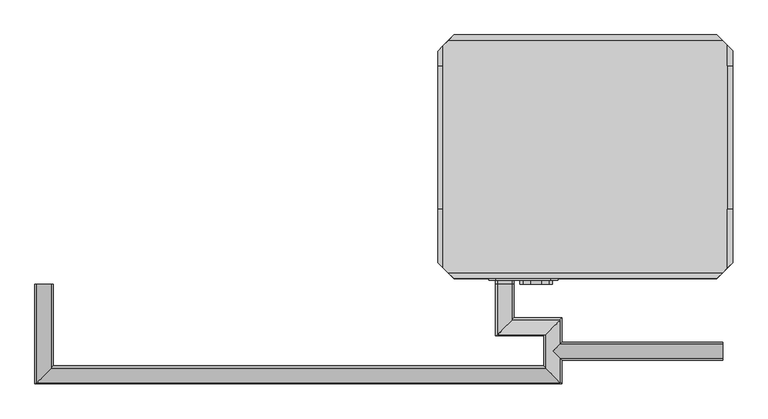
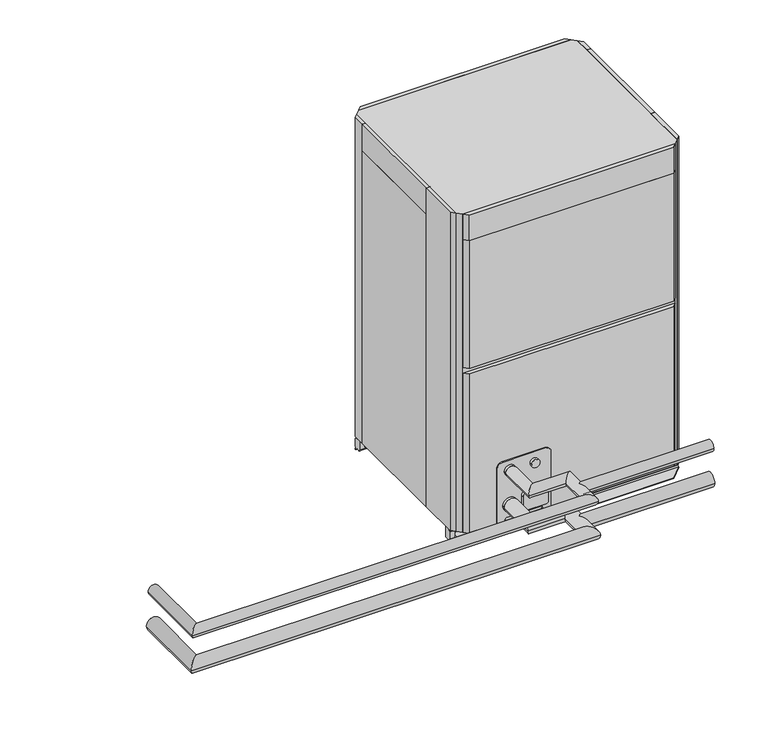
"""IFC4 building model written with IfcOpenShell, lengths in millimetres: proxy geometry, PURY-P168-288_YSJMU_Heat_Recovery_460V : PURY-P192YSJMU-A(-BS)_460V."""

from ifc_helpers import new_model, si_unit, point, frame, frame_2d, origin, place, context, project, spatial, polyline, circle_curve, ellipse_curve, trimmed, segment, composite_curve, outline, extrude, source, transform, mapped, element, save
from ifc_brep_helpers import plane_surface, cylinder_surface, revolved_surface, advanced_brep


def mechanical_equipment_f1262ded(model_context):
    return source(origin(), model_context, "Body", "SolidModel", [
        advanced_brep(
        [(-227.9552757, -397.2710787, 128.75), (-170.8052757, -397.2710787, 128.75), (-227.9552757, -709.2315266, 128.75), (-170.8052757, -652.0815266, 128.75), (1418.1947243, -709.2315266, 128.75), (1361.0447243, -652.0815266, 128.75), (1418.1947243, -635.3498061, 128.75), (1389.6197243, -606.7748061, 157.325), (1418.1947243, -578.1998061, 128.75), (1418.1947243, -502.0815266, 128.75), (1361.0447243, -559.2315266, 128.75), (1389.6197243, -606.7748061, 100.175), (1268.1947243, -502.0815266, 128.75), (1211.0447243, -559.2315266, 128.75), (1268.1947243, -397.2710787, 128.75), (1211.0447243, -397.2710787, 128.75), (1919.6197243, -635.3498061, 128.75), (1919.6197243, -578.1998061, 128.75)],
        [
            (0, 1, circle_curve(frame((-199.3802757, -397.2710787, 128.75), z_axis=(0.0, 1.0, 0.0), x_axis=(1.0, 0.0, 0.0)), 28.575)),
            (1, 0, circle_curve(frame((-199.3802757, -397.2710787, 128.75), z_axis=(0.0, 1.0, 0.0), x_axis=(1.0, 0.0, 0.0)), 28.575)),
            (0, 2),
            (2, 3, ellipse_curve(frame((-199.3802757, -680.6565266, 128.75), z_axis=(-0.7071067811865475, 0.7071067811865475, 0.0), x_axis=(0.7071067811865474, 0.7071067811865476, 0.0)), 40.4111525, 28.575)),
            (3, 1),
            (3, 2, ellipse_curve(frame((-199.3802757, -680.6565266, 128.75), z_axis=(-0.7071067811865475, 0.7071067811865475, 0.0), x_axis=(0.7071067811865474, 0.7071067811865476, 0.0)), 40.4111525, 28.575)),
            (2, 4),
            (4, 5, ellipse_curve(frame((1389.6197243, -680.6565266, 128.75), z_axis=(-0.7071067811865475, -0.7071067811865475, 0.0), x_axis=(-0.7071067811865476, 0.7071067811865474, 0.0)), 40.4111525, 28.575)),
            (5, 3),
            (5, 4, ellipse_curve(frame((1389.6197243, -680.6565266, 128.75), z_axis=(-0.7071067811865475, -0.7071067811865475, 0.0), x_axis=(-0.7071067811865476, 0.7071067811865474, 0.0)), 40.4111525, 28.575)),
            (4, 6),
            (6, 7, ellipse_curve(frame((1389.6197243, -606.7748061, 128.75), z_axis=(-0.7071067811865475, -0.7071067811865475, 0.0), x_axis=(0.7071067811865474, -0.7071067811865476, 0.0)), 40.4111525, 28.575)),
            (7, 8, ellipse_curve(frame((1389.6197243, -606.7748061, 128.75), z_axis=(-0.7071067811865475, 0.7071067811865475, 0.0), x_axis=(-0.7071067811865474, -0.7071067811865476, 0.0)), 40.4111525, 28.575)),
            (8, 9),
            (9, 10, ellipse_curve(frame((1389.6197243, -530.6565266, 128.75), z_axis=(0.7071067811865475, -0.7071067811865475, 0.0), x_axis=(-0.7071067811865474, -0.7071067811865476, 0.0)), 40.4111525, 28.575)),
            (10, 5),
            (10, 9, ellipse_curve(frame((1389.6197243, -530.6565266, 128.75), z_axis=(0.7071067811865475, -0.7071067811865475, 0.0), x_axis=(-0.7071067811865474, -0.7071067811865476, 0.0)), 40.4111525, 28.575)),
            (8, 11, ellipse_curve(frame((1389.6197243, -606.7748061, 128.75), z_axis=(-0.7071067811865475, 0.7071067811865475, 0.0), x_axis=(-0.7071067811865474, -0.7071067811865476, 0.0)), 40.4111525, 28.575)),
            (11, 6, ellipse_curve(frame((1389.6197243, -606.7748061, 128.75), z_axis=(-0.7071067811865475, -0.7071067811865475, 0.0), x_axis=(0.7071067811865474, -0.7071067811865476, 0.0)), 40.4111525, 28.575)),
            (9, 12),
            (12, 13, ellipse_curve(frame((1239.6197243, -530.6565266, 128.75), z_axis=(0.7071067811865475, -0.7071067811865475, 0.0), x_axis=(0.7071067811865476, 0.7071067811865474, 0.0)), 40.4111525, 28.575)),
            (13, 10),
            (13, 12, ellipse_curve(frame((1239.6197243, -530.6565266, 128.75), z_axis=(0.7071067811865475, -0.7071067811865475, 0.0), x_axis=(0.7071067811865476, 0.7071067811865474, 0.0)), 40.4111525, 28.575)),
            (14, 15, circle_curve(frame((1239.6197243, -397.2710787, 128.75), z_axis=(0.0, 1.0, 0.0), x_axis=(-1.0, 0.0, 0.0)), 28.575)),
            (15, 14, circle_curve(frame((1239.6197243, -397.2710787, 128.75), z_axis=(0.0, 1.0, 0.0), x_axis=(-1.0, 0.0, 0.0)), 28.575)),
            (12, 14),
            (15, 13),
            (16, 17, circle_curve(frame((1919.6197243, -606.7748061, 128.75), z_axis=(1.0, 0.0, 0.0), x_axis=(0.0, 1.0, 0.0)), 28.575)),
            (17, 16, circle_curve(frame((1919.6197243, -606.7748061, 128.75), z_axis=(1.0, 0.0, 0.0), x_axis=(0.0, 1.0, 0.0)), 28.575)),
            (17, 8),
            (6, 16),
        ],
        [
            plane_surface(frame((-199.3802757, -397.2710787, 128.75), z_axis=(0.0, 1.0, 0.0), x_axis=(0.0, 0.0, 1.0))),
            cylinder_surface(frame((-199.3802757, -397.2710787, 128.75), z_axis=(0.0, 1.0, 0.0), x_axis=(1.0, 0.0, 0.0)), 28.575),
            cylinder_surface(frame((-199.3802757, -680.6565266, 128.75), z_axis=(-1.0, 0.0, 0.0), x_axis=(0.0, 1.0, 0.0)), 28.575),
            cylinder_surface(frame((1389.6197243, -680.6565266, 128.75), z_axis=(0.0, -1.0, 0.0), x_axis=(-1.0, 0.0, 0.0)), 28.575),
            cylinder_surface(frame((1389.6197243, -530.6565266, 128.75), z_axis=(1.0, 0.0, 0.0), x_axis=(0.0, -1.0, 0.0)), 28.575),
            plane_surface(frame((1239.6197243, -397.2710787, 128.75), z_axis=(0.0, 1.0, 0.0), x_axis=(0.0, 0.0, 1.0))),
            cylinder_surface(frame((1239.6197243, -530.6565266, 128.75), z_axis=(0.0, -1.0, 0.0), x_axis=(-1.0, 0.0, 0.0)), 28.575),
            plane_surface(frame((1919.6197243, -606.7748061, 128.75), z_axis=(1.0, 0.0, 0.0), x_axis=(0.0, 0.0, 1.0))),
            cylinder_surface(frame((1389.6197243, -606.7748061, 128.75), z_axis=(-1.0, 0.0, 0.0), x_axis=(0.0, 1.0, 0.0)), 28.575),
        ],
        [
            (0, [[1, 2]]),
            (1, [[-1, 3, 4, 5]]),
            (1, [[-2, -5, 6, -3]]),
            (2, [[-4, 7, 8, 9]]),
            (2, [[-6, -9, 10, -7]]),
            (3, [[-8, 11, 12, 13, 14, 15, 16]]),
            (3, [[-10, -16, 17, -14, 18, 19, -11]]),
            (4, [[-15, 20, 21, 22]]),
            (4, [[-17, -22, 23, -20]]),
            (5, [[24, 25]]),
            (6, [[-21, 26, -25, 27]]),
            (6, [[-23, -27, -24, -26]]),
            (7, [[28, 29]]),
            (8, [[-29, 30, -13, -12, 31]]),
            (8, [[-28, -31, -19, -18, -30]]),
        ],
    ),
        advanced_brep(
        [(-221.6052757, -397.2710787, 272.67), (-177.1552757, -397.2710787, 272.67), (-221.6052757, -705.4033198, 272.67), (-177.1552757, -660.9533198, 272.67), (1411.8447243, -705.4033198, 272.67), (1367.3947243, -660.9533198, 272.67), (1411.8447243, -628.9998061, 272.67), (1389.6197243, -606.7748061, 294.895), (1411.8447243, -584.5498061, 272.67), (1411.8447243, -510.9533198, 272.67), (1367.3947243, -555.4033198, 272.67), (1389.6197243, -606.7748061, 250.445), (1261.8447243, -510.9533198, 272.67), (1217.3947243, -555.4033198, 272.67), (1261.8447243, -397.2710787, 272.67), (1217.3947243, -397.2710787, 272.67), (1919.6197243, -628.9998061, 272.67), (1919.6197243, -584.5498061, 272.67)],
        [
            (0, 1, circle_curve(frame((-199.3802757, -397.2710787, 272.67), z_axis=(0.0, 1.0, 0.0), x_axis=(1.0, 0.0, 0.0)), 22.225)),
            (1, 0, circle_curve(frame((-199.3802757, -397.2710787, 272.67), z_axis=(0.0, 1.0, 0.0), x_axis=(1.0, 0.0, 0.0)), 22.225)),
            (0, 2),
            (2, 3, ellipse_curve(frame((-199.3802757, -683.1783198, 272.67), z_axis=(-0.7071067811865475, 0.7071067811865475, 0.0), x_axis=(0.7071067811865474, 0.7071067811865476, 0.0)), 31.4308964, 22.225)),
            (3, 1),
            (3, 2, ellipse_curve(frame((-199.3802757, -683.1783198, 272.67), z_axis=(-0.7071067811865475, 0.7071067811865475, 0.0), x_axis=(0.7071067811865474, 0.7071067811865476, 0.0)), 31.4308964, 22.225)),
            (2, 4),
            (4, 5, ellipse_curve(frame((1389.6197243, -683.1783198, 272.67), z_axis=(-0.7071067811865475, -0.7071067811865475, 0.0), x_axis=(-0.7071067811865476, 0.7071067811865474, 0.0)), 31.4308964, 22.225)),
            (5, 3),
            (5, 4, ellipse_curve(frame((1389.6197243, -683.1783198, 272.67), z_axis=(-0.7071067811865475, -0.7071067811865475, 0.0), x_axis=(-0.7071067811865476, 0.7071067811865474, 0.0)), 31.4308964, 22.225)),
            (4, 6),
            (6, 7, ellipse_curve(frame((1389.6197243, -606.7748061, 272.67), z_axis=(-0.7071067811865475, -0.7071067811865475, 0.0), x_axis=(0.7071067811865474, -0.7071067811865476, 0.0)), 31.4308964, 22.225)),
            (7, 8, ellipse_curve(frame((1389.6197243, -606.7748061, 272.67), z_axis=(-0.7071067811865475, 0.7071067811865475, 0.0), x_axis=(-0.7071067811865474, -0.7071067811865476, 0.0)), 31.4308964, 22.225)),
            (8, 9),
            (9, 10, ellipse_curve(frame((1389.6197243, -533.1783198, 272.67), z_axis=(0.7071067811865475, -0.7071067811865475, 0.0), x_axis=(-0.7071067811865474, -0.7071067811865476, 0.0)), 31.4308964, 22.225)),
            (10, 5),
            (10, 9, ellipse_curve(frame((1389.6197243, -533.1783198, 272.67), z_axis=(0.7071067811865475, -0.7071067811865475, 0.0), x_axis=(-0.7071067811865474, -0.7071067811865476, 0.0)), 31.4308964, 22.225)),
            (8, 11, ellipse_curve(frame((1389.6197243, -606.7748061, 272.67), z_axis=(-0.7071067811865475, 0.7071067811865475, 0.0), x_axis=(-0.7071067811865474, -0.7071067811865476, 0.0)), 31.4308964, 22.225)),
            (11, 6, ellipse_curve(frame((1389.6197243, -606.7748061, 272.67), z_axis=(-0.7071067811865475, -0.7071067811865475, 0.0), x_axis=(0.7071067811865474, -0.7071067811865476, 0.0)), 31.4308964, 22.225)),
            (9, 12),
            (12, 13, ellipse_curve(frame((1239.6197243, -533.1783198, 272.67), z_axis=(0.7071067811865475, -0.7071067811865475, 0.0), x_axis=(0.7071067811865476, 0.7071067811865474, 0.0)), 31.4308964, 22.225)),
            (13, 10),
            (13, 12, ellipse_curve(frame((1239.6197243, -533.1783198, 272.67), z_axis=(0.7071067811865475, -0.7071067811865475, 0.0), x_axis=(0.7071067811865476, 0.7071067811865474, 0.0)), 31.4308964, 22.225)),
            (14, 15, circle_curve(frame((1239.6197243, -397.2710787, 272.67), z_axis=(0.0, 1.0, 0.0), x_axis=(-1.0, 0.0, 0.0)), 22.225)),
            (15, 14, circle_curve(frame((1239.6197243, -397.2710787, 272.67), z_axis=(0.0, 1.0, 0.0), x_axis=(-1.0, 0.0, 0.0)), 22.225)),
            (12, 14),
            (15, 13),
            (16, 17, circle_curve(frame((1919.6197243, -606.7748061, 272.67), z_axis=(1.0, 0.0, 0.0), x_axis=(0.0, 1.0, 0.0)), 22.225)),
            (17, 16, circle_curve(frame((1919.6197243, -606.7748061, 272.67), z_axis=(1.0, 0.0, 0.0), x_axis=(0.0, 1.0, 0.0)), 22.225)),
            (17, 8),
            (6, 16),
        ],
        [
            plane_surface(frame((-199.3802757, -397.2710787, 272.67), z_axis=(0.0, 1.0, 0.0), x_axis=(0.0, 0.0, 1.0))),
            cylinder_surface(frame((-199.3802757, -397.2710787, 272.67), z_axis=(0.0, 1.0, 0.0), x_axis=(1.0, 0.0, 0.0)), 22.225),
            cylinder_surface(frame((-199.3802757, -683.1783198, 272.67), z_axis=(-1.0, 0.0, 0.0), x_axis=(0.0, 1.0, 0.0)), 22.225),
            cylinder_surface(frame((1389.6197243, -683.1783198, 272.67), z_axis=(0.0, -1.0, 0.0), x_axis=(-1.0, 0.0, 0.0)), 22.225),
            cylinder_surface(frame((1389.6197243, -533.1783198, 272.67), z_axis=(1.0, 0.0, 0.0), x_axis=(0.0, -1.0, 0.0)), 22.225),
            plane_surface(frame((1239.6197243, -397.2710787, 272.67), z_axis=(0.0, 1.0, 0.0), x_axis=(0.0, 0.0, 1.0))),
            cylinder_surface(frame((1239.6197243, -533.1783198, 272.67), z_axis=(0.0, -1.0, 0.0), x_axis=(-1.0, 0.0, 0.0)), 22.225),
            plane_surface(frame((1919.6197243, -606.7748061, 272.67), z_axis=(1.0, 0.0, 0.0), x_axis=(0.0, 0.0, 1.0))),
            cylinder_surface(frame((1389.6197243, -606.7748061, 272.67), z_axis=(-1.0, 0.0, 0.0), x_axis=(0.0, 1.0, 0.0)), 22.225),
        ],
        [
            (0, [[1, 2]]),
            (1, [[-1, 3, 4, 5]]),
            (1, [[-2, -5, 6, -3]]),
            (2, [[-4, 7, 8, 9]]),
            (2, [[-6, -9, 10, -7]]),
            (3, [[-8, 11, 12, 13, 14, 15, 16]]),
            (3, [[-10, -16, 17, -14, 18, 19, -11]]),
            (4, [[-15, 20, 21, 22]]),
            (4, [[-17, -22, 23, -20]]),
            (5, [[24, 25]]),
            (6, [[-21, 26, -25, 27]]),
            (6, [[-23, -27, -24, -26]]),
            (7, [[28, 29]]),
            (8, [[-29, 30, -13, -12, 31]]),
            (8, [[-28, -31, -19, -18, -30]]),
        ],
    ),
        extrude(outline(composite_curve([segment(trimmed(circle_curve(frame_2d((148.5853631, 1296.6117511)), 9.9920268), [point((158.5773899, 1296.6117511))], [point((148.5853631, 1286.6197243))], False, "CARTESIAN"), True, "CONTINUOUS"), segment(polyline([(148.5853631, 1286.6197243), (96.5694168, 1286.6197243)]), True, "CONTINUOUS"), segment(trimmed(circle_curve(frame_2d((96.5694168, 1296.6117511)), 9.9920268), [point((96.5694168, 1286.6197243))], [point((86.5773899, 1296.6117511))], False, "CARTESIAN"), True, "CONTINUOUS"), segment(polyline([(86.5773899, 1296.6117511), (86.5773899, 1378.6276974)]), True, "CONTINUOUS"), segment(trimmed(circle_curve(frame_2d((96.5694168, 1378.6276974)), 9.9920268), [point((86.5773899, 1378.6276974))], [point((96.5694168, 1388.6197243))], False, "CARTESIAN"), True, "CONTINUOUS"), segment(polyline([(96.5694168, 1388.6197243), (148.5853631, 1388.6197243)]), True, "CONTINUOUS"), segment(trimmed(circle_curve(frame_2d((148.5853631, 1378.6276974)), 9.9920268), [point((148.5853631, 1388.6197243))], [point((158.5773899, 1378.6276974))], False, "CARTESIAN"), True, "CONTINUOUS"), segment(polyline([(158.5773899, 1378.6276974), (158.5773899, 1296.6117511)]), True, "CONTINUOUS")], self_intersect=False)), frame((0.0, -397.2710787, 0.0), z_axis=(0.0, 1.0, 0.0), x_axis=(0.0, 0.0, 1.0)), (0.0, 0.0, 1.0), 12.5),
        extrude(outline(composite_curve([segment(trimmed(circle_curve(frame_2d((292.0295314, 1383.8713302)), 21.9704686), [point((292.0295314, 1405.8417988))], [point((314.0, 1383.8713302))], False, "CARTESIAN"), True, "CONTINUOUS"), segment(polyline([(314.0, 1383.8713302), (314.0, 1212.0084686)]), True, "CONTINUOUS"), segment(trimmed(circle_curve(frame_2d((292.0295314, 1212.0084686)), 21.9704686), [point((314.0, 1212.0084686))], [point((292.0295314, 1190.038))], False, "CARTESIAN"), True, "CONTINUOUS"), segment(polyline([(292.0295314, 1190.038), (54.0, 1190.038), (54.0, 1405.8417988), (292.0295314, 1405.8417988)]), True, "CONTINUOUS")], self_intersect=False), holes=[composite_curve([segment(trimmed(circle_curve(frame_2d((66.0219765, 1364.5867184)), 7.4940201), [point((73.5159966, 1364.5867184))], [point((58.5279563, 1364.5867184))], True, "CARTESIAN"), True, "CONTINUOUS"), segment(polyline([(58.5279563, 1364.5867184), (58.5279563, 1229.6943561)]), True, "CONTINUOUS"), segment(trimmed(circle_curve(frame_2d((66.0219765, 1229.6943561)), 7.4940201), [point((58.5279563, 1229.6943561))], [point((73.5159966, 1229.6943561))], True, "CARTESIAN"), True, "CONTINUOUS"), segment(polyline([(73.5159966, 1229.6943561), (73.5159966, 1364.5867184)]), True, "CONTINUOUS")], self_intersect=False)]), frame((0.0, -384.7710787, 0.0), z_axis=(0.0, 1.0, 0.0), x_axis=(0.0, 0.0, 1.0)), (0.0, 0.0, 1.0), 4.7710787),
        extrude(outline(composite_curve([segment(trimmed(circle_curve(frame_2d((272.5206481, 1239.6197243)), 22.225), [point((272.5206481, 1217.3947243))], [point((272.5206481, 1261.8447243))], False, "CARTESIAN"), True, "CONTINUOUS"), segment(trimmed(circle_curve(frame_2d((272.5206481, 1239.6197243)), 22.225), [point((272.5206481, 1261.8447243))], [point((272.5206481, 1217.3947243))], False, "CARTESIAN"), True, "CONTINUOUS")], self_intersect=False)), frame((0.0, -397.2710787, 0.0), z_axis=(0.0, 1.0, 0.0), x_axis=(0.0, 0.0, 1.0)), (0.0, 0.0, 1.0), 12.5),
        extrude(outline(composite_curve([segment(trimmed(circle_curve(frame_2d((272.5206481, 1337.6197243)), 17.0), [point((272.5206481, 1320.6197243))], [point((272.5206481, 1354.6197243))], False, "CARTESIAN"), True, "CONTINUOUS"), segment(trimmed(circle_curve(frame_2d((272.5206481, 1337.6197243)), 17.0), [point((272.5206481, 1354.6197243))], [point((272.5206481, 1320.6197243))], False, "CARTESIAN"), True, "CONTINUOUS")], self_intersect=False)), frame((0.0, -397.2710787, 0.0), z_axis=(0.0, 1.0, 0.0), x_axis=(0.0, 0.0, 1.0)), (0.0, 0.0, 1.0), 12.5),
        extrude(outline(composite_curve([segment(trimmed(circle_curve(frame_2d((127.8409633, 1239.6197243)), 28.575), [point((127.8409633, 1211.0447243))], [point((127.8409633, 1268.1947243))], False, "CARTESIAN"), True, "CONTINUOUS"), segment(trimmed(circle_curve(frame_2d((127.8409633, 1239.6197243)), 28.575), [point((127.8409633, 1268.1947243))], [point((127.8409633, 1211.0447243))], False, "CARTESIAN"), True, "CONTINUOUS")], self_intersect=False)), frame((0.0, -397.2710787, 0.0), z_axis=(0.0, 1.0, 0.0), x_axis=(0.0, 0.0, 1.0)), (0.0, 0.0, 1.0), 12.5),
        extrude(outline(polyline([(1951.038, 284.0), (1935.038, 284.0), (1935.038, 346.9999976), (1951.038, 330.9999976), (1951.038, 284.0)])), frame((0.0, 0.0, 54.0), z_axis=(0.0, 0.0, 1.0), x_axis=(1.0, 0.0, 0.0)), (0.0, 0.0, 1.0), 1356.0),
        extrude(outline(polyline([(1935.038, -164.0), (1951.038, -164.0), (1951.038, -331.000002), (1935.038, -347.000002), (1935.038, -164.0)])), frame((0.0, 0.0, 54.0), z_axis=(0.0, 0.0, 1.0), x_axis=(1.0, 0.0, 0.0)), (0.0, 0.0, 1.0), 1356.0),
        extrude(outline(polyline([(1882.5551598, 364.0), (1882.5551598, 380.0), (1902.0379976, 380.0), (1918.0379976, 364.0), (1882.5551598, 364.0)])), frame((0.0, 0.0, 54.0), z_axis=(0.0, 0.0, 1.0), x_axis=(1.0, 0.0, 0.0)), (0.0, 0.0, 1.0), 1245.8),
        extrude(outline(polyline([(1109.870831, 380.0), (1109.870831, 364.0), (1065.4504928, 364.0), (1081.4504928, 380.0), (1109.870831, 380.0)])), frame((0.0, 0.0, 54.0), z_axis=(0.0, 0.0, 1.0), x_axis=(1.0, 0.0, 0.0)), (0.0, 0.0, 1.0), 1245.8),
        extrude(outline(polyline([(1918.0379976, 364.0), (1065.4504928, 364.0), (1081.4504928, 380.0), (1902.0379976, 380.0), (1918.0379976, 364.0)])), frame((0.0, 0.0, 1299.8), z_axis=(0.0, 0.0, 1.0), x_axis=(1.0, 0.0, 0.0)), (0.0, 0.0, 1.0), 110.2),
        extrude(outline(polyline([(1902.038002, -380.0), (1080.0379871, -380.0), (1064.0379871, -364.0), (1918.038002, -364.0), (1902.038002, -380.0)])), frame((0.0, 0.0, 1299.8), z_axis=(0.0, 0.0, 1.0), x_axis=(1.0, 0.0, 0.0)), (0.0, 0.0, 1.0), 110.2),
        extrude(outline(polyline([(1064.0379871, -364.0), (1918.038002, -364.0), (1902.038002, -380.0), (1080.0379871, -380.0), (1064.0379871, -364.0)])), frame((0.0, 0.0, 755.5000076), z_axis=(0.0, 0.0, 1.0), x_axis=(1.0, 0.0, 0.0)), (0.0, 0.0, 1.0), 544.2999924),
        extrude(outline(polyline([(1047.038, -347.0000129), (1047.038, 345.5875072), (1065.4504928, 364.0), (1918.0379976, 364.0), (1935.038, 346.9999976), (1935.038, -347.000002), (1918.038002, -364.0), (1064.0379871, -364.0), (1047.038, -347.0000129)])), frame((0.0, 0.0, 54.0), z_axis=(0.0, 0.0, 1.0), x_axis=(1.0, 0.0, 0.0)), (0.0, 0.0, 1.0), 1356.0),
        extrude(outline(polyline([(1047.038, 284.0), (1031.038, 284.0), (1031.038, 329.5875072), (1047.038, 345.5875072), (1047.038, 284.0)])), frame((0.0, 0.0, 54.0), z_axis=(0.0, 0.0, 1.0), x_axis=(1.0, 0.0, 0.0)), (0.0, 0.0, 1.0), 1356.0),
        extrude(outline(polyline([(1031.038, -164.0), (1047.038, -164.0), (1047.038, -347.0000129), (1031.038, -331.0000129), (1031.038, -164.0)])), frame((0.0, 0.0, 54.0), z_axis=(0.0, 0.0, 1.0), x_axis=(1.0, 0.0, 0.0)), (0.0, 0.0, 1.0), 1356.0),
        extrude(outline(polyline([(1064.0379871, -364.0), (1918.038002, -364.0), (1902.038002, -380.0), (1080.0379871, -380.0), (1064.0379871, -364.0)])), frame((0.0, 0.0, 54.0), z_axis=(0.0, 0.0, 1.0), x_axis=(1.0, 0.0, 0.0)), (0.0, 0.0, 1.0), 678.5000074),
        extrude(outline(polyline([(1491.038, 364.0), (1491.038, 380.0), (1882.5551598, 380.0), (1882.5551598, 364.0), (1491.038, 364.0)])), frame((0.0, 0.0, 54.0), z_axis=(0.0, 0.0, 1.0), x_axis=(1.0, 0.0, 0.0)), (0.0, 0.0, 1.0), 1245.8),
        extrude(outline(polyline([(1109.870831, 364.0), (1109.870831, 380.0), (1491.038, 380.0), (1491.038, 364.0), (1109.870831, 364.0)])), frame((0.0, 0.0, 54.0), z_axis=(0.0, 0.0, 1.0), x_axis=(1.0, 0.0, 0.0)), (0.0, 0.0, 1.0), 1245.8),
        advanced_brep(
        [(1951.038, 330.9999976, 2.3), (1951.038, 330.9999976, 0.0), (1902.0379976, 380.0, 0.0), (1902.0379976, 380.0, 2.3), (1031.038, 329.5875072, 0.0), (1031.038, 329.5875072, 2.3), (1081.4504928, 380.0, 2.3), (1081.4504928, 380.0, 0.0), (1951.038, 329.5875072, 2.3), (1951.038, 324.5875071, 7.3000001), (1951.038, 324.5875071, 11.7000001), (1951.038, 325.5875071, 12.7000001), (1951.038, 327.5875072, 12.7000001), (1951.038, 327.5875072, 47.3000005), (1951.038, 325.5875071, 47.3000005), (1951.038, 324.5875071, 48.3000005), (1951.038, 324.5875071, 50.0000004), (1951.038, 320.5875077, 53.9999997), (1951.038, 299.5875069, 53.9999997), (1951.038, 299.5875069, 14.0000001), (1951.038, 304.5875069, 9.0000001), (1951.038, 322.2875071, 9.0000001), (1951.038, 322.2875071, 7.3000001), (1951.038, 329.5875072, 0.0), (1031.038, 322.2875071, 7.3000001), (1031.038, 322.2875071, 9.0000001), (1031.038, 304.5875069, 9.0000001), (1031.038, 299.5875069, 14.0000001), (1031.038, 299.5875069, 53.9999997), (1031.038, 320.5875077, 53.9999997), (1031.038, 324.5875071, 50.0000004), (1031.038, 324.5875071, 48.3000005), (1031.038, 325.5875071, 47.3000005), (1031.038, 327.5875072, 47.3000005), (1031.038, 327.5875072, 12.7000001), (1031.038, 325.5875071, 12.7000001), (1031.038, 324.5875071, 11.7000001), (1031.038, 324.5875071, 7.3000001), (1922.288009, 327.5875072, 45.0000005), (1880.7880086, 327.5875072, 45.0000005), (1874.7880085, 327.5875072, 39.0000004), (1874.7880085, 327.5875072, 21.0000002), (1880.7880086, 327.5875072, 15.0000002), (1922.288009, 327.5875072, 15.0000002), (1928.2880091, 327.5875072, 21.0000002), (1928.2880091, 327.5875072, 39.0000004), (1059.0380003, 327.5875072, 45.0000005), (1053.0380002, 327.5875072, 39.0000004), (1053.0380002, 327.5875072, 21.0000002), (1059.0380003, 327.5875072, 15.0000002), (1100.5380007, 327.5875072, 15.0000002), (1106.5380008, 327.5875072, 21.0000002), (1106.5380008, 327.5875072, 39.0000004), (1100.5380007, 327.5875072, 45.0000005), (1880.7880086, 299.5875069, 45.0000005), (1922.288009, 299.5875069, 45.0000005), (1928.2880091, 299.5875069, 39.0000004), (1928.2880091, 299.5875069, 21.0000002), (1922.288009, 299.5875069, 15.0000002), (1880.7880086, 299.5875069, 15.0000002), (1874.7880085, 299.5875069, 21.0000002), (1874.7880085, 299.5875069, 39.0000004), (1053.0380002, 299.5875069, 39.0000004), (1059.0380003, 299.5875069, 45.0000005), (1100.5380007, 299.5875069, 45.0000005), (1106.5380008, 299.5875069, 39.0000004), (1106.5380008, 299.5875069, 21.0000002), (1100.5380007, 299.5875069, 15.0000002), (1059.0380003, 299.5875069, 15.0000002), (1053.0380002, 299.5875069, 21.0000002)],
        [
            (0, 1),
            (1, 2),
            (2, 3),
            (3, 0),
            (4, 5),
            (5, 6),
            (6, 7),
            (7, 4),
            (8, 9, circle_curve(frame((1951.038, 329.5875072, 7.3000001), z_axis=(-1.0, 0.0, 0.0), x_axis=(0.0, 1.0, 0.0)), 5.0000001)),
            (9, 10),
            (10, 11, circle_curve(frame((1951.038, 325.5875071, 11.7000001), z_axis=(-1.0, 0.0, 0.0), x_axis=(0.0, 1.0, 0.0)), 1.0)),
            (11, 12),
            (12, 13),
            (13, 14),
            (14, 15, circle_curve(frame((1951.038, 325.5875071, 48.3000005), z_axis=(-1.0, 0.0, 0.0), x_axis=(0.0, 1.0, 0.0)), 1.0)),
            (15, 16),
            (16, 17, circle_curve(frame((1951.038, 320.5875077, 50.0000004), z_axis=(1.0, 0.0, 0.0), x_axis=(0.0, 1.0, 0.0)), 3.9999994)),
            (17, 18),
            (18, 19),
            (19, 20, circle_curve(frame((1951.038, 304.5875069, 14.0000001), z_axis=(1.0, 0.0, 0.0), x_axis=(0.0, 1.0, 0.0)), 5.0000001)),
            (20, 21),
            (21, 22),
            (22, 23, circle_curve(frame((1951.038, 329.5875072, 7.3000001), z_axis=(1.0, 0.0, 0.0), x_axis=(0.0, 1.0, 0.0)), 7.3000001)),
            (23, 1),
            (0, 8),
            (4, 24, circle_curve(frame((1031.038, 329.5875072, 7.3000001), z_axis=(-1.0, 0.0, 0.0), x_axis=(0.0, 1.0, 0.0)), 7.3000001)),
            (24, 25),
            (25, 26),
            (26, 27, circle_curve(frame((1031.038, 304.5875069, 14.0000001), z_axis=(-1.0, 0.0, 0.0), x_axis=(0.0, 1.0, 0.0)), 5.0000001)),
            (27, 28),
            (28, 29),
            (29, 30, circle_curve(frame((1031.038, 320.5875077, 50.0000004), z_axis=(-1.0, 0.0, 0.0), x_axis=(0.0, 1.0, 0.0)), 3.9999994)),
            (30, 31),
            (31, 32, circle_curve(frame((1031.038, 325.5875071, 48.3000005), z_axis=(1.0, 0.0, 0.0), x_axis=(0.0, 1.0, 0.0)), 1.0)),
            (32, 33),
            (33, 34),
            (34, 35),
            (35, 36, circle_curve(frame((1031.038, 325.5875071, 11.7000001), z_axis=(1.0, 0.0, 0.0), x_axis=(0.0, 1.0, 0.0)), 1.0)),
            (36, 37),
            (37, 5, circle_curve(frame((1031.038, 329.5875072, 7.3000001), z_axis=(1.0, 0.0, 0.0), x_axis=(0.0, 1.0, 0.0)), 5.0000001)),
            (8, 5),
            (37, 9),
            (36, 10),
            (35, 11),
            (34, 12),
            (33, 13),
            (38, 39),
            (39, 40, circle_curve(frame((1880.7880086, 327.5875072, 39.0000004), z_axis=(0.0, -1.0, 0.0), x_axis=(1.0, 0.0, 0.0)), 6.0000001)),
            (40, 41),
            (41, 42, circle_curve(frame((1880.7880086, 327.5875072, 21.0000002), z_axis=(0.0, -1.0, 0.0), x_axis=(1.0, 0.0, 0.0)), 6.0000001)),
            (42, 43),
            (43, 44, circle_curve(frame((1922.288009, 327.5875072, 21.0000002), z_axis=(0.0, -1.0, 0.0), x_axis=(1.0, 0.0, 0.0)), 6.0000001)),
            (44, 45),
            (45, 38, circle_curve(frame((1922.288009, 327.5875072, 39.0000004), z_axis=(0.0, -1.0, 0.0), x_axis=(1.0, 0.0, 0.0)), 6.0000001)),
            (46, 47, circle_curve(frame((1059.0380003, 327.5875072, 39.0000004), z_axis=(0.0, -1.0, 0.0), x_axis=(1.0, 0.0, 0.0)), 6.0000001)),
            (47, 48),
            (48, 49, circle_curve(frame((1059.0380003, 327.5875072, 21.0000002), z_axis=(0.0, -1.0, 0.0), x_axis=(1.0, 0.0, 0.0)), 6.0000001)),
            (49, 50),
            (50, 51, circle_curve(frame((1100.5380007, 327.5875072, 21.0000002), z_axis=(0.0, -1.0, 0.0), x_axis=(1.0, 0.0, 0.0)), 6.0000001)),
            (51, 52),
            (52, 53, circle_curve(frame((1100.5380007, 327.5875072, 39.0000004), z_axis=(0.0, -1.0, 0.0), x_axis=(1.0, 0.0, 0.0)), 6.0000001)),
            (53, 46),
            (32, 14),
            (31, 15),
            (30, 16),
            (29, 17),
            (28, 18),
            (27, 19),
            (54, 55),
            (55, 56, circle_curve(frame((1922.288009, 299.5875069, 39.0000004), z_axis=(0.0, 1.0, 0.0), x_axis=(1.0, 0.0, 0.0)), 6.0000001)),
            (56, 57),
            (57, 58, circle_curve(frame((1922.288009, 299.5875069, 21.0000002), z_axis=(0.0, 1.0, 0.0), x_axis=(1.0, 0.0, 0.0)), 6.0000001)),
            (58, 59),
            (59, 60, circle_curve(frame((1880.7880086, 299.5875069, 21.0000002), z_axis=(0.0, 1.0, 0.0), x_axis=(1.0, 0.0, 0.0)), 6.0000001)),
            (60, 61),
            (61, 54, circle_curve(frame((1880.7880086, 299.5875069, 39.0000004), z_axis=(0.0, 1.0, 0.0), x_axis=(1.0, 0.0, 0.0)), 6.0000001)),
            (62, 63, circle_curve(frame((1059.0380003, 299.5875069, 39.0000004), z_axis=(0.0, 1.0, 0.0), x_axis=(1.0, 0.0, 0.0)), 6.0000001)),
            (63, 64),
            (64, 65, circle_curve(frame((1100.5380007, 299.5875069, 39.0000004), z_axis=(0.0, 1.0, 0.0), x_axis=(1.0, 0.0, 0.0)), 6.0000001)),
            (65, 66),
            (66, 67, circle_curve(frame((1100.5380007, 299.5875069, 21.0000002), z_axis=(0.0, 1.0, 0.0), x_axis=(1.0, 0.0, 0.0)), 6.0000001)),
            (67, 68),
            (68, 69, circle_curve(frame((1059.0380003, 299.5875069, 21.0000002), z_axis=(0.0, 1.0, 0.0), x_axis=(1.0, 0.0, 0.0)), 6.0000001)),
            (69, 62),
            (26, 20),
            (25, 21),
            (24, 22),
            (4, 23),
            (7, 2),
            (6, 3),
            (38, 55),
            (54, 39),
            (61, 40),
            (60, 41),
            (59, 42),
            (58, 43),
            (57, 44),
            (56, 45),
            (46, 63),
            (62, 47),
            (69, 48),
            (68, 49),
            (67, 50),
            (66, 51),
            (65, 52),
            (64, 53),
        ],
        [
            plane_surface(frame((1902.0379976, 380.0, 1410.0), z_axis=(0.7071067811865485, 0.7071067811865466, 0.0), x_axis=(0.0, 0.0, -1.0))),
            plane_surface(frame((1031.038, 329.5875072, 1410.0), z_axis=(-0.7071067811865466, 0.7071067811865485, 0.0), x_axis=(0.0, 0.0, -1.0))),
            plane_surface(frame((1951.038, 334.5875072, 7.3000001), z_axis=(1.0, 0.0, 0.0), x_axis=(0.0, 0.0, -1.0))),
            plane_surface(frame((1031.038, 334.5875072, 7.3000001), z_axis=(-1.0, 0.0, 0.0), x_axis=(0.0, 0.0, 1.0))),
            revolved_surface(polyline([(1031.038, 334.5875073, 7.3000001), (1951.038, 334.5875073, 7.3000001)]), (1031.038, 329.5875072, 7.3000001), (-1.0, 0.0, 0.0)),
            plane_surface(frame((1951.038, 324.5875071, 7.3000001), z_axis=(0.0, 1.0, 0.0), x_axis=(-1.0, 0.0, 0.0))),
            revolved_surface(polyline([(1031.038, 326.5875071, 11.7000001), (1951.038, 326.5875071, 11.7000001)]), (1031.038, 325.5875071, 11.7000001), (-1.0, 0.0, 0.0)),
            plane_surface(frame((1951.038, 325.5875071, 12.7000001), z_axis=(0.0, 0.0, -1.0), x_axis=(-1.0, 0.0, 0.0))),
            plane_surface(frame((1951.038, 327.5875072, 12.7000001), z_axis=(0.0, 1.0, 0.0), x_axis=(-1.0, 0.0, 0.0))),
            plane_surface(frame((1951.038, 327.5875072, 47.3000005), z_axis=(0.0, 0.0, 1.0), x_axis=(-1.0, 0.0, 0.0))),
            revolved_surface(polyline([(1031.038, 326.5875071, 48.3000005), (1951.038, 326.5875071, 48.3000005)]), (1031.038, 325.5875071, 48.3000005), (-1.0, 0.0, 0.0)),
            plane_surface(frame((1951.038, 324.5875071, 48.3000005), z_axis=(0.0, 1.0, 0.0), x_axis=(-1.0, 0.0, 0.0))),
            cylinder_surface(frame((1031.038, 320.5875077, 50.0000004), z_axis=(1.0, 0.0, 0.0), x_axis=(0.0, 1.0, 0.0)), 3.9999994),
            plane_surface(frame((1951.038, 320.5875077, 53.9999997), z_axis=(0.0, 0.0, 1.0), x_axis=(-1.0, 0.0, 0.0))),
            plane_surface(frame((1951.038, 299.5875069, 53.9999997), z_axis=(0.0, -1.0, 0.0), x_axis=(-1.0, 0.0, 0.0))),
            cylinder_surface(frame((1031.038, 304.5875069, 14.0000001), z_axis=(1.0, 0.0, 0.0), x_axis=(0.0, 1.0, 0.0)), 5.0000001),
            plane_surface(frame((1951.038, 304.5875069, 9.0000001), z_axis=(0.0, 0.0, -1.0), x_axis=(-1.0, 0.0, 0.0))),
            plane_surface(frame((1951.038, 322.2875071, 9.0000001), z_axis=(0.0, -1.0, 0.0), x_axis=(-1.0, 0.0, 0.0))),
            cylinder_surface(frame((1031.038, 329.5875072, 7.3000001), z_axis=(1.0, 0.0, 0.0), x_axis=(0.0, 1.0, 0.0)), 7.3000001),
            plane_surface(frame((1951.038, 329.5875072, 0.0), z_axis=(0.0, 0.0, -1.0), x_axis=(-1.0, 0.0, 0.0))),
            plane_surface(frame((1951.038, 380.0, 0.0), z_axis=(0.0, 1.0, 0.0), x_axis=(-1.0, 0.0, 0.0))),
            plane_surface(frame((1951.038, 380.0, 2.3), z_axis=(0.0, 0.0, 1.0), x_axis=(-1.0, 0.0, 0.0))),
            plane_surface(frame((1922.288009, -339.0, 45.0000005), z_axis=(0.0, 0.0, -1.0), x_axis=(0.0, 1.0, 0.0))),
            revolved_surface(polyline([(1886.7880087, 299.5875069, 39.0000004), (1886.7880087, 327.5875072, 39.0000004)]), (1880.7880086, 339.0, 39.0000004), (0.0, -1.0, 0.0)),
            plane_surface(frame((1874.7880085, -339.0, 39.0000004), z_axis=(1.0, 0.0, 0.0), x_axis=(0.0, 1.0, 0.0))),
            revolved_surface(polyline([(1886.7880087, 299.5875069, 21.0000002), (1886.7880087, 327.5875072, 21.0000002)]), (1880.7880086, 339.0, 21.0000002), (0.0, -1.0, 0.0)),
            plane_surface(frame((1880.7880086, -339.0, 15.0000002), z_axis=(0.0, 0.0, 1.0), x_axis=(0.0, 1.0, 0.0))),
            revolved_surface(polyline([(1928.2880091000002, 299.5875069, 21.0000002), (1928.2880091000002, 327.5875072, 21.0000002)]), (1922.288009, 339.0, 21.0000002), (0.0, -1.0, 0.0)),
            plane_surface(frame((1928.2880091, -339.0, 21.0000002), z_axis=(-1.0, 0.0, 0.0), x_axis=(0.0, 1.0, 0.0))),
            revolved_surface(polyline([(1928.2880091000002, 299.5875069, 39.0000004), (1928.2880091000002, 327.5875072, 39.0000004)]), (1922.288009, 339.0, 39.0000004), (0.0, -1.0, 0.0)),
            revolved_surface(polyline([(1065.0380004, 299.5875069, 39.0000004), (1065.0380004, 327.5875072, 39.0000004)]), (1059.0380003, 0.0, 39.0000004), (0.0, -1.0, 0.0)),
            plane_surface(frame((1053.0380002, -339.0, 39.0000004), z_axis=(1.0, 0.0, 0.0), x_axis=(0.0, 1.0, 0.0))),
            revolved_surface(polyline([(1065.0380004, 299.5875069, 21.0000002), (1065.0380004, 327.5875072, 21.0000002)]), (1059.0380003, 0.0, 21.0000002), (0.0, -1.0, 0.0)),
            plane_surface(frame((1059.0380003, -339.0, 15.0000002), z_axis=(0.0, 0.0, 1.0), x_axis=(0.0, 1.0, 0.0))),
            revolved_surface(polyline([(1106.5380008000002, 299.5875069, 21.0000002), (1106.5380008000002, 327.5875072, 21.0000002)]), (1100.5380007, 0.0, 21.0000002), (0.0, -1.0, 0.0)),
            plane_surface(frame((1106.5380008, -339.0, 21.0000002), z_axis=(-1.0, 0.0, 0.0), x_axis=(0.0, 1.0, 0.0))),
            revolved_surface(polyline([(1106.5380008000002, 299.5875069, 39.0000004), (1106.5380008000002, 327.5875072, 39.0000004)]), (1100.5380007, 0.0, 39.0000004), (0.0, -1.0, 0.0)),
            plane_surface(frame((1100.5380007, -339.0, 45.0000005), z_axis=(0.0, 0.0, -1.0), x_axis=(0.0, 1.0, 0.0))),
        ],
        [
            (0, [[1, 2, 3, 4]]),
            (1, [[5, 6, 7, 8]]),
            (2, [[9, 10, 11, 12, 13, 14, 15, 16, 17, 18, 19, 20, 21, 22, 23, 24, -1, 25]]),
            (3, [[26, 27, 28, 29, 30, 31, 32, 33, 34, 35, 36, 37, 38, 39, 40, -5]]),
            (4, [[-9, 41, -40, 42]]),
            (5, [[-10, -42, -39, 43]]),
            (6, [[-11, -43, -38, 44]]),
            (7, [[-12, -44, -37, 45]]),
            (8, [[-13, -45, -36, 46], [47, 48, 49, 50, 51, 52, 53, 54], [55, 56, 57, 58, 59, 60, 61, 62]]),
            (9, [[-14, -46, -35, 63]]),
            (10, [[-15, -63, -34, 64]]),
            (11, [[-16, -64, -33, 65]]),
            (12, [[-17, -65, -32, 66]]),
            (13, [[-18, -66, -31, 67]]),
            (14, [[-19, -67, -30, 68], [69, 70, 71, 72, 73, 74, 75, 76], [77, 78, 79, 80, 81, 82, 83, 84]]),
            (15, [[-20, -68, -29, 85]]),
            (16, [[-21, -85, -28, 86]]),
            (17, [[-22, -86, -27, 87]]),
            (18, [[-23, -87, -26, 88]]),
            (19, [[-88, -8, 89, -2, -24]]),
            (20, [[-89, -7, 90, -3]]),
            (21, [[-41, -25, -4, -90, -6]]),
            (22, [[91, -69, 92, -47]]),
            (23, [[-92, -76, 93, -48]]),
            (24, [[-93, -75, 94, -49]]),
            (25, [[-94, -74, 95, -50]]),
            (26, [[-95, -73, 96, -51]]),
            (27, [[-96, -72, 97, -52]]),
            (28, [[-97, -71, 98, -53]]),
            (29, [[-91, -54, -98, -70]]),
            (30, [[99, -77, 100, -55]]),
            (31, [[-100, -84, 101, -56]]),
            (32, [[-101, -83, 102, -57]]),
            (33, [[-102, -82, 103, -58]]),
            (34, [[-103, -81, 104, -59]]),
            (35, [[-104, -80, 105, -60]]),
            (36, [[-105, -79, 106, -61]]),
            (37, [[-99, -62, -106, -78]]),
        ],
    ),
        advanced_brep(
        [(1951.038, -331.000002, 0.0), (1951.038, -331.000002, 2.3), (1902.038002, -380.0, 2.3), (1902.038002, -380.0, 0.0), (1031.038, -331.0000129, 2.3), (1031.038, -331.0000129, 0.0), (1080.0379871, -380.0, 0.0), (1080.0379871, -380.0, 2.3), (1951.038, -329.9000072, 0.0), (1951.038, -322.6000071, 7.3000001), (1951.038, -322.6000071, 9.0000001), (1951.038, -304.9000069, 9.0000001), (1951.038, -299.9000069, 14.0000001), (1951.038, -299.9000069, 53.9999997), (1951.038, -320.9000077, 53.9999997), (1951.038, -324.9000071, 50.0000004), (1951.038, -324.9000071, 48.3000005), (1951.038, -325.9000071, 47.3000005), (1951.038, -327.9000072, 47.3000005), (1951.038, -327.9000072, 12.7000001), (1951.038, -325.9000071, 12.7000001), (1951.038, -324.9000071, 11.7000001), (1951.038, -324.9000071, 7.3000001), (1951.038, -329.9000072, 2.3), (1031.038, -329.9000072, 2.3), (1031.038, -324.9000071, 7.3000001), (1031.038, -324.9000071, 11.7000001), (1031.038, -325.9000071, 12.7000001), (1031.038, -327.9000072, 12.7000001), (1031.038, -327.9000072, 47.3000005), (1031.038, -325.9000071, 47.3000005), (1031.038, -324.9000071, 48.3000005), (1031.038, -324.9000071, 50.0000004), (1031.038, -320.9000077, 53.9999997), (1031.038, -299.9000069, 53.9999997), (1031.038, -299.9000069, 14.0000001), (1031.038, -304.9000069, 9.0000001), (1031.038, -322.6000071, 9.0000001), (1031.038, -322.6000071, 7.3000001), (1031.038, -329.9000072, 0.0), (1922.288009, -299.9000069, 45.0000005), (1880.7880086, -299.9000069, 45.0000005), (1874.7880085, -299.9000069, 39.0000004), (1874.7880085, -299.9000069, 21.0000002), (1880.7880086, -299.9000069, 15.0000002), (1922.288009, -299.9000069, 15.0000002), (1928.2880091, -299.9000069, 21.0000002), (1928.2880091, -299.9000069, 39.0000004), (1059.0380003, -299.9000069, 45.0000005), (1053.0380002, -299.9000069, 39.0000004), (1053.0380002, -299.9000069, 21.0000002), (1059.0380003, -299.9000069, 15.0000002), (1100.5380007, -299.9000069, 15.0000002), (1106.5380008, -299.9000069, 21.0000002), (1106.5380008, -299.9000069, 39.0000004), (1100.5380007, -299.9000069, 45.0000005), (1880.7880086, -327.9000072, 45.0000005), (1922.288009, -327.9000072, 45.0000005), (1928.2880091, -327.9000072, 39.0000004), (1928.2880091, -327.9000072, 21.0000002), (1922.288009, -327.9000072, 15.0000002), (1880.7880086, -327.9000072, 15.0000002), (1874.7880085, -327.9000072, 21.0000002), (1874.7880085, -327.9000072, 39.0000004), (1053.0380002, -327.9000072, 39.0000004), (1059.0380003, -327.9000072, 45.0000005), (1100.5380007, -327.9000072, 45.0000005), (1106.5380008, -327.9000072, 39.0000004), (1106.5380008, -327.9000072, 21.0000002), (1100.5380007, -327.9000072, 15.0000002), (1059.0380003, -327.9000072, 15.0000002), (1053.0380002, -327.9000072, 21.0000002)],
        [
            (0, 1),
            (1, 2),
            (2, 3),
            (3, 0),
            (4, 5),
            (5, 6),
            (6, 7),
            (7, 4),
            (8, 9, circle_curve(frame((1951.038, -329.9000072, 7.3000001), z_axis=(1.0, 0.0, 0.0), x_axis=(0.0, 1.0, 0.0)), 7.3000001)),
            (9, 10),
            (10, 11),
            (11, 12, circle_curve(frame((1951.038, -304.9000069, 14.0000001), z_axis=(1.0, 0.0, 0.0), x_axis=(0.0, 1.0, 0.0)), 5.0000001)),
            (12, 13),
            (13, 14),
            (14, 15, circle_curve(frame((1951.038, -320.9000077, 50.0000004), z_axis=(1.0, 0.0, 0.0), x_axis=(0.0, 1.0, 0.0)), 3.9999994)),
            (15, 16),
            (16, 17, circle_curve(frame((1951.038, -325.9000071, 48.3000005), z_axis=(-1.0, 0.0, 0.0), x_axis=(0.0, 1.0, 0.0)), 1.0)),
            (17, 18),
            (18, 19),
            (19, 20),
            (20, 21, circle_curve(frame((1951.038, -325.9000071, 11.7000001), z_axis=(-1.0, 0.0, 0.0), x_axis=(0.0, 1.0, 0.0)), 1.0)),
            (21, 22),
            (22, 23, circle_curve(frame((1951.038, -329.9000072, 7.3000001), z_axis=(-1.0, 0.0, 0.0), x_axis=(0.0, 1.0, 0.0)), 5.0000001)),
            (23, 1),
            (0, 8),
            (24, 25, circle_curve(frame((1031.038, -329.9000072, 7.3000001), z_axis=(1.0, 0.0, 0.0), x_axis=(0.0, 1.0, 0.0)), 5.0000001)),
            (25, 26),
            (26, 27, circle_curve(frame((1031.038, -325.9000071, 11.7000001), z_axis=(1.0, 0.0, 0.0), x_axis=(0.0, 1.0, 0.0)), 1.0)),
            (27, 28),
            (28, 29),
            (29, 30),
            (30, 31, circle_curve(frame((1031.038, -325.9000071, 48.3000005), z_axis=(1.0, 0.0, 0.0), x_axis=(0.0, 1.0, 0.0)), 1.0)),
            (31, 32),
            (32, 33, circle_curve(frame((1031.038, -320.9000077, 50.0000004), z_axis=(-1.0, 0.0, 0.0), x_axis=(0.0, 1.0, 0.0)), 3.9999994)),
            (33, 34),
            (34, 35),
            (35, 36, circle_curve(frame((1031.038, -304.9000069, 14.0000001), z_axis=(-1.0, 0.0, 0.0), x_axis=(0.0, 1.0, 0.0)), 5.0000001)),
            (36, 37),
            (37, 38),
            (38, 39, circle_curve(frame((1031.038, -329.9000072, 7.3000001), z_axis=(-1.0, 0.0, 0.0), x_axis=(0.0, 1.0, 0.0)), 7.3000001)),
            (39, 5),
            (4, 24),
            (23, 24),
            (7, 2),
            (6, 3),
            (39, 8),
            (38, 9),
            (37, 10),
            (36, 11),
            (35, 12),
            (34, 13),
            (40, 41),
            (41, 42, circle_curve(frame((1880.7880086, -299.9000069, 39.0000004), z_axis=(0.0, -1.0, 0.0), x_axis=(1.0, 0.0, 0.0)), 6.0000001)),
            (42, 43),
            (43, 44, circle_curve(frame((1880.7880086, -299.9000069, 21.0000002), z_axis=(0.0, -1.0, 0.0), x_axis=(1.0, 0.0, 0.0)), 6.0000001)),
            (44, 45),
            (45, 46, circle_curve(frame((1922.288009, -299.9000069, 21.0000002), z_axis=(0.0, -1.0, 0.0), x_axis=(1.0, 0.0, 0.0)), 6.0000001)),
            (46, 47),
            (47, 40, circle_curve(frame((1922.288009, -299.9000069, 39.0000004), z_axis=(0.0, -1.0, 0.0), x_axis=(1.0, 0.0, 0.0)), 6.0000001)),
            (48, 49, circle_curve(frame((1059.0380003, -299.9000069, 39.0000004), z_axis=(0.0, -1.0, 0.0), x_axis=(1.0, 0.0, 0.0)), 6.0000001)),
            (49, 50),
            (50, 51, circle_curve(frame((1059.0380003, -299.9000069, 21.0000002), z_axis=(0.0, -1.0, 0.0), x_axis=(1.0, 0.0, 0.0)), 6.0000001)),
            (51, 52),
            (52, 53, circle_curve(frame((1100.5380007, -299.9000069, 21.0000002), z_axis=(0.0, -1.0, 0.0), x_axis=(1.0, 0.0, 0.0)), 6.0000001)),
            (53, 54),
            (54, 55, circle_curve(frame((1100.5380007, -299.9000069, 39.0000004), z_axis=(0.0, -1.0, 0.0), x_axis=(1.0, 0.0, 0.0)), 6.0000001)),
            (55, 48),
            (33, 14),
            (32, 15),
            (31, 16),
            (30, 17),
            (29, 18),
            (28, 19),
            (56, 57),
            (57, 58, circle_curve(frame((1922.288009, -327.9000072, 39.0000004), z_axis=(0.0, 1.0, 0.0), x_axis=(1.0, 0.0, 0.0)), 6.0000001)),
            (58, 59),
            (59, 60, circle_curve(frame((1922.288009, -327.9000072, 21.0000002), z_axis=(0.0, 1.0, 0.0), x_axis=(1.0, 0.0, 0.0)), 6.0000001)),
            (60, 61),
            (61, 62, circle_curve(frame((1880.7880086, -327.9000072, 21.0000002), z_axis=(0.0, 1.0, 0.0), x_axis=(1.0, 0.0, 0.0)), 6.0000001)),
            (62, 63),
            (63, 56, circle_curve(frame((1880.7880086, -327.9000072, 39.0000004), z_axis=(0.0, 1.0, 0.0), x_axis=(1.0, 0.0, 0.0)), 6.0000001)),
            (64, 65, circle_curve(frame((1059.0380003, -327.9000072, 39.0000004), z_axis=(0.0, 1.0, 0.0), x_axis=(1.0, 0.0, 0.0)), 6.0000001)),
            (65, 66),
            (66, 67, circle_curve(frame((1100.5380007, -327.9000072, 39.0000004), z_axis=(0.0, 1.0, 0.0), x_axis=(1.0, 0.0, 0.0)), 6.0000001)),
            (67, 68),
            (68, 69, circle_curve(frame((1100.5380007, -327.9000072, 21.0000002), z_axis=(0.0, 1.0, 0.0), x_axis=(1.0, 0.0, 0.0)), 6.0000001)),
            (69, 70),
            (70, 71, circle_curve(frame((1059.0380003, -327.9000072, 21.0000002), z_axis=(0.0, 1.0, 0.0), x_axis=(1.0, 0.0, 0.0)), 6.0000001)),
            (71, 64),
            (27, 20),
            (26, 21),
            (25, 22),
            (40, 57),
            (56, 41),
            (63, 42),
            (62, 43),
            (61, 44),
            (60, 45),
            (59, 46),
            (58, 47),
            (48, 65),
            (64, 49),
            (71, 50),
            (70, 51),
            (69, 52),
            (68, 53),
            (67, 54),
            (66, 55),
        ],
        [
            plane_surface(frame((1951.038, -331.000002, 1410.0), z_axis=(0.707106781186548, -0.707106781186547, 0.0), x_axis=(0.0, 0.0, -1.0))),
            plane_surface(frame((1080.0379871, -380.0, 1410.0), z_axis=(-0.7071067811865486, -0.7071067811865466, 0.0), x_axis=(0.0, 0.0, -1.0))),
            plane_surface(frame((1951.038, 334.5875072, 7.3000001), z_axis=(1.0, 0.0, 0.0), x_axis=(0.0, 0.0, -1.0))),
            plane_surface(frame((1031.038, 334.5875072, 7.3000001), z_axis=(-1.0, 0.0, 0.0), x_axis=(0.0, 0.0, 1.0))),
            plane_surface(frame((1951.038, -329.9000072, 2.3), z_axis=(0.0, 0.0, 1.0), x_axis=(-1.0, 0.0, 0.0))),
            plane_surface(frame((1951.038, -380.0, 2.3), z_axis=(0.0, -1.0, 0.0), x_axis=(-1.0, 0.0, 0.0))),
            plane_surface(frame((1951.038, -380.0, 0.0), z_axis=(0.0, 1.267803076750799e-12, -1.0), x_axis=(-1.0, 0.0, 0.0))),
            cylinder_surface(frame((1491.038, -329.9000072, 7.3000001), z_axis=(1.0, 0.0, 0.0), x_axis=(0.0, 1.0, 0.0)), 7.3000001),
            plane_surface(frame((1951.038, -322.6000071, 7.3000001), z_axis=(0.0, 1.0, 0.0), x_axis=(-1.0, 0.0, 0.0))),
            plane_surface(frame((1951.038, -322.6000071, 9.0000001), z_axis=(0.0, -3.566361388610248e-12, -1.0), x_axis=(-1.0, 0.0, 0.0))),
            cylinder_surface(frame((1491.038, -304.9000069, 14.0000001), z_axis=(1.0, 0.0, 0.0), x_axis=(0.0, 1.0, 0.0)), 5.0000001),
            plane_surface(frame((1951.038, -299.9000069, 14.0000001), z_axis=(0.0, 1.0, 0.0), x_axis=(-1.0, 0.0, 0.0))),
            plane_surface(frame((1951.038, -299.9000069, 53.9999997), z_axis=(0.0, 0.0, 1.0), x_axis=(-1.0, 0.0, 0.0))),
            cylinder_surface(frame((1491.038, -320.9000077, 50.0000004), z_axis=(1.0, 0.0, 0.0), x_axis=(0.0, 1.0, 0.0)), 3.9999994),
            plane_surface(frame((1951.038, -324.9000071, 50.0000004), z_axis=(0.0, -1.0, 1.592451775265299e-12), x_axis=(-1.0, 0.0, 0.0))),
            revolved_surface(polyline([(1031.038, -324.9000071, 48.3000005), (1951.038, -324.9000071, 48.3000005)]), (1491.038, -325.9000071, 48.3000005), (-1.0, 0.0, 0.0)),
            plane_surface(frame((1951.038, -325.9000071, 47.3000005), z_axis=(0.0, 0.0, 1.0), x_axis=(-1.0, 0.0, 0.0))),
            plane_surface(frame((1951.038, -327.9000072, 47.3000005), z_axis=(0.0, -1.0, 0.0), x_axis=(-1.0, 0.0, 0.0))),
            plane_surface(frame((1951.038, -327.9000072, 12.7000001), z_axis=(0.0, 0.0, -1.0), x_axis=(-1.0, 0.0, 0.0))),
            revolved_surface(polyline([(1031.038, -324.9000071, 11.7000001), (1951.038, -324.9000071, 11.7000001)]), (1491.038, -325.9000071, 11.7000001), (-1.0, 0.0, 0.0)),
            plane_surface(frame((1951.038, -324.9000071, 11.7000001), z_axis=(0.0, -1.0, 0.0), x_axis=(-1.0, 0.0, 0.0))),
            revolved_surface(polyline([(1031.038, -324.9000071, 7.3000001), (1951.038, -324.9000071, 7.3000001)]), (1491.038, -329.9000072, 7.3000001), (-1.0, 0.0, 0.0)),
            plane_surface(frame((1922.288009, -339.0, 45.0000005), z_axis=(0.0, 0.0, -1.0), x_axis=(0.0, 1.0, 0.0))),
            revolved_surface(polyline([(1886.7880087, -327.9000072, 39.0000004), (1886.7880087, -299.9000069, 39.0000004)]), (1880.7880086, 339.0, 39.0000004), (0.0, -1.0, 0.0)),
            plane_surface(frame((1874.7880085, -339.0, 39.0000004), z_axis=(1.0, 0.0, 0.0), x_axis=(0.0, 1.0, 0.0))),
            revolved_surface(polyline([(1886.7880087, -327.9000072, 21.0000002), (1886.7880087, -299.9000069, 21.0000002)]), (1880.7880086, 339.0, 21.0000002), (0.0, -1.0, 0.0)),
            plane_surface(frame((1880.7880086, -339.0, 15.0000002), z_axis=(0.0, 0.0, 1.0), x_axis=(0.0, 1.0, 0.0))),
            revolved_surface(polyline([(1928.2880091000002, -327.9000072, 21.0000002), (1928.2880091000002, -299.9000069, 21.0000002)]), (1922.288009, 339.0, 21.0000002), (0.0, -1.0, 0.0)),
            plane_surface(frame((1928.2880091, -339.0, 21.0000002), z_axis=(-1.0, 0.0, 0.0), x_axis=(0.0, 1.0, 0.0))),
            revolved_surface(polyline([(1928.2880091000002, -327.9000072, 39.0000004), (1928.2880091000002, -299.9000069, 39.0000004)]), (1922.288009, 339.0, 39.0000004), (0.0, -1.0, 0.0)),
            revolved_surface(polyline([(1065.0380004, -327.9000072, 39.0000004), (1065.0380004, -299.9000069, 39.0000004)]), (1059.0380003, 0.0, 39.0000004), (0.0, -1.0, 0.0)),
            plane_surface(frame((1053.0380002, -339.0, 39.0000004), z_axis=(1.0, 0.0, 0.0), x_axis=(0.0, 1.0, 0.0))),
            revolved_surface(polyline([(1065.0380004, -327.9000072, 21.0000002), (1065.0380004, -299.9000069, 21.0000002)]), (1059.0380003, 0.0, 21.0000002), (0.0, -1.0, 0.0)),
            plane_surface(frame((1059.0380003, -339.0, 15.0000002), z_axis=(0.0, 0.0, 1.0), x_axis=(0.0, 1.0, 0.0))),
            revolved_surface(polyline([(1106.5380008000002, -327.9000072, 21.0000002), (1106.5380008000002, -299.9000069, 21.0000002)]), (1100.5380007, 0.0, 21.0000002), (0.0, -1.0, 0.0)),
            plane_surface(frame((1106.5380008, -339.0, 21.0000002), z_axis=(-1.0, 0.0, 0.0), x_axis=(0.0, 1.0, 0.0))),
            revolved_surface(polyline([(1106.5380008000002, -327.9000072, 39.0000004), (1106.5380008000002, -299.9000069, 39.0000004)]), (1100.5380007, 0.0, 39.0000004), (0.0, -1.0, 0.0)),
            plane_surface(frame((1100.5380007, -339.0, 45.0000005), z_axis=(0.0, 0.0, -1.0), x_axis=(0.0, 1.0, 0.0))),
        ],
        [
            (0, [[1, 2, 3, 4]]),
            (1, [[5, 6, 7, 8]]),
            (2, [[9, 10, 11, 12, 13, 14, 15, 16, 17, 18, 19, 20, 21, 22, 23, 24, -1, 25]]),
            (3, [[26, 27, 28, 29, 30, 31, 32, 33, 34, 35, 36, 37, 38, 39, 40, 41, -5, 42]]),
            (4, [[43, -42, -8, 44, -2, -24]]),
            (5, [[-44, -7, 45, -3]]),
            (6, [[46, -25, -4, -45, -6, -41]]),
            (7, [[-9, -46, -40, 47]]),
            (8, [[-10, -47, -39, 48]]),
            (9, [[-11, -48, -38, 49]]),
            (10, [[-12, -49, -37, 50]]),
            (11, [[-13, -50, -36, 51], [52, 53, 54, 55, 56, 57, 58, 59], [60, 61, 62, 63, 64, 65, 66, 67]]),
            (12, [[-14, -51, -35, 68]]),
            (13, [[-15, -68, -34, 69]]),
            (14, [[-16, -69, -33, 70]]),
            (15, [[-17, -70, -32, 71]]),
            (16, [[-18, -71, -31, 72]]),
            (17, [[-19, -72, -30, 73], [74, 75, 76, 77, 78, 79, 80, 81], [82, 83, 84, 85, 86, 87, 88, 89]]),
            (18, [[-20, -73, -29, 90]]),
            (19, [[-21, -90, -28, 91]]),
            (20, [[-22, -91, -27, 92]]),
            (21, [[-23, -92, -26, -43]]),
            (22, [[93, -74, 94, -52]]),
            (23, [[-94, -81, 95, -53]]),
            (24, [[-95, -80, 96, -54]]),
            (25, [[-96, -79, 97, -55]]),
            (26, [[-97, -78, 98, -56]]),
            (27, [[-98, -77, 99, -57]]),
            (28, [[-99, -76, 100, -58]]),
            (29, [[-93, -59, -100, -75]]),
            (30, [[101, -82, 102, -60]]),
            (31, [[-102, -89, 103, -61]]),
            (32, [[-103, -88, 104, -62]]),
            (33, [[-104, -87, 105, -63]]),
            (34, [[-105, -86, 106, -64]]),
            (35, [[-106, -85, 107, -65]]),
            (36, [[-107, -84, 108, -66]]),
            (37, [[-101, -67, -108, -83]]),
        ],
    ),
        extrude(outline(polyline([(1951.038, 284.0), (1951.038, -164.0), (1935.038, -164.0), (1935.038, 284.0), (1951.038, 284.0)])), frame((0.0, 0.0, 1299.8), z_axis=(0.0, 0.0, 1.0), x_axis=(1.0, 0.0, 0.0)), (0.0, 0.0, 1.0), 110.2),
        extrude(outline(polyline([(1951.038, 284.0), (1951.038, -164.0), (1935.038, -164.0), (1935.038, 284.0), (1951.038, 284.0)])), frame((0.0, 0.0, 54.0), z_axis=(0.0, 0.0, 1.0), x_axis=(1.0, 0.0, 0.0)), (0.0, 0.0, 1.0), 1245.8),
        extrude(outline(polyline([(1031.038, -164.0), (1031.038, 284.0), (1047.038, 284.0), (1047.038, -164.0), (1031.038, -164.0)])), frame((0.0, 0.0, 1299.8), z_axis=(0.0, 0.0, 1.0), x_axis=(1.0, 0.0, 0.0)), (0.0, 0.0, 1.0), 110.2),
        extrude(outline(polyline([(1031.038, -164.0), (1031.038, 284.0), (1047.038, 284.0), (1047.038, -164.0), (1031.038, -164.0)])), frame((0.0, 0.0, 54.0), z_axis=(0.0, 0.0, 1.0), x_axis=(1.0, 0.0, 0.0)), (0.0, 0.0, 1.0), 1245.8),
    ])


if __name__ == "__main__":
    model = new_model("IFC4")
    model_context = context("Model", 3, world=origin())
    ifc_project = project(units=[si_unit("LENGTHUNIT", "METRE", prefix="MILLI")], contexts=[model_context])
    site = spatial("IfcSite", under=ifc_project)
    building = spatial("IfcBuilding", under=site)
    placement = place(None, origin())
    mechanical_equipment_shape = mechanical_equipment_f1262ded(model_context)
    element("IfcBuildingElementProxy", 1, Name="PURY-P168-288_YSJMU_Heat_Recovery_460V : PURY-P192YSJMU-A(-BS)_460V", ObjectType="PURY-P168-288_YSJMU_Heat_Recovery_460V : PURY-P192YSJMU-A(-BS)_460V", at=placement, inside=building, context=model_context, shape_type="MappedRepresentation", body=[
        mapped(mechanical_equipment_shape, transform((0.0, 0.0, 0.0), x_axis=(1.0, 0.0, 0.0), y_axis=(0.0, 1.0, 0.0), z_axis=(0.0, 0.0, 1.0))),
    ])
    save(model, "model.ifc")
